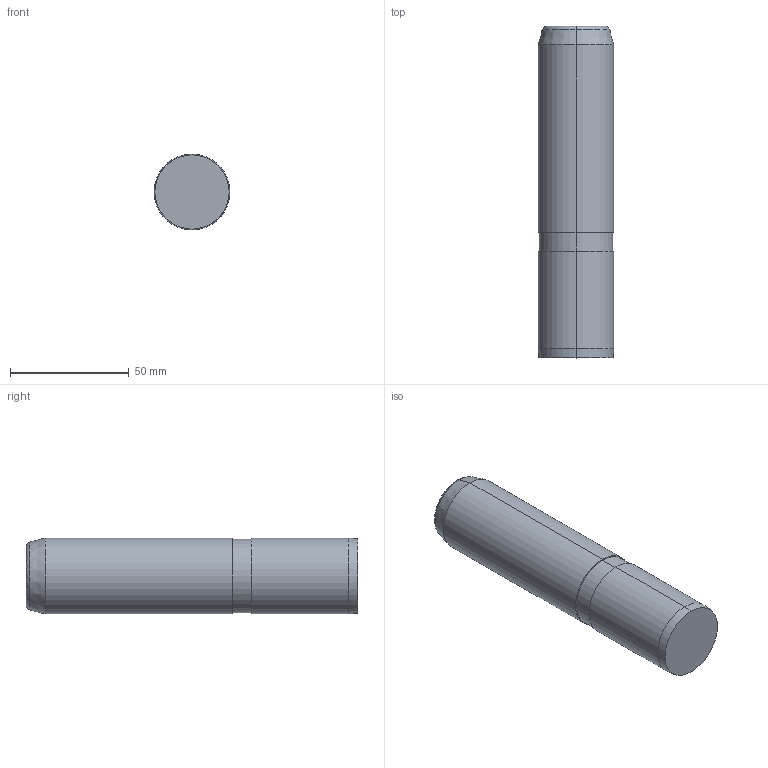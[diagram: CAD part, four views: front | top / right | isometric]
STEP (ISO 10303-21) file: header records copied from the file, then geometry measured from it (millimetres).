
FILE_DESCRIPTION (( 'STEP AP214' ), '1' );
FILE_NAME ('D13.02_32140.step', '2011-12-25T17:34:13', ( 'Dell' ), ( '' ), 'SwSTEP 2.0', 'SolidWorks 2010', '' );
FILE_SCHEMA (( 'AUTOMOTIVE_DESIGN' ));
Length unit declared in the file: millimetre
Products named in the file (1): D13.02_32140
Bounding box: 32 x 140 x 32 mm (x, y, z)
Volume: 111266.9 mm3; surface area: 15450.1 mm2
Topology: 1 solids, 1 shells, 16 faces, 32 edges, 20 vertices
Faces by surface type: cylinder 6, cone 4, plane 4, bspline 2
Entity records: 478 total; most frequent: CARTESIAN_POINT 111, DIRECTION 76, ORIENTED_EDGE 64, AXIS2_PLACEMENT_3D 33, EDGE_CURVE 32, VERTEX_POINT 20, EDGE_LOOP 18, CIRCLE 18
